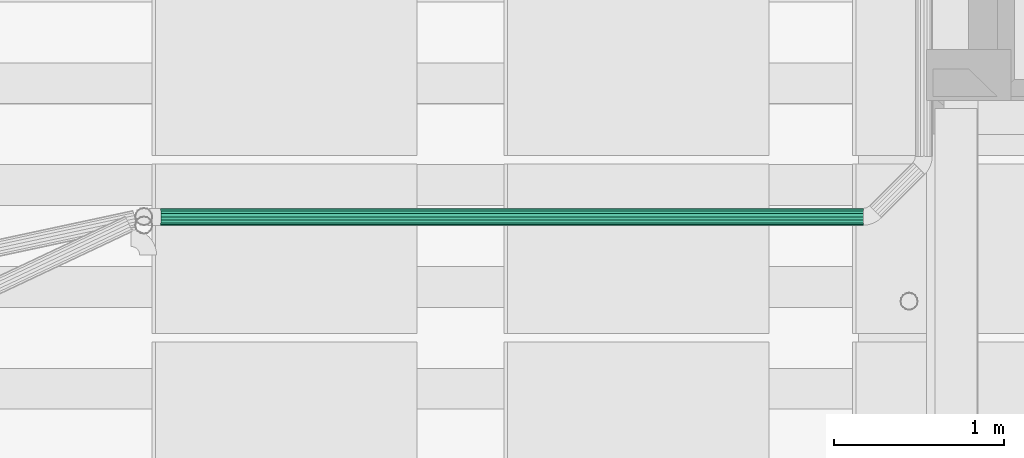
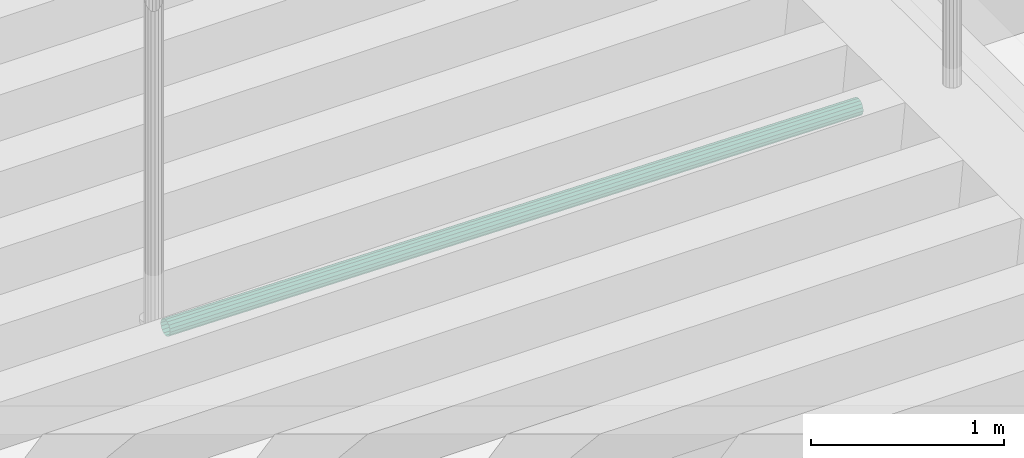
# One storey, part 45 of 106: 1 flow segment.
"""IFC2X3 building model written with IfcOpenShell, lengths in metres."""

from ifc_helpers import new_model, entity, si_unit, converted_unit, derived_unit, money_unit, direction, frame, origin_with_axes, place, context, subcontext, project, spatial, faceted_brep, material, type_object, element, save


model = new_model("IFC2X3")

# Units and contexts
model_context = context("Model", 3, precision=1e-05, world=origin_with_axes(), true_north=direction((0.0, 1.0)))
body_context = subcontext(model_context, "Body", "Model", "MODEL_VIEW", scale=1.0)
ifc_project = project(units=[si_unit("LENGTHUNIT", "METRE"), si_unit("AREAUNIT", "SQUARE_METRE"), si_unit("VOLUMEUNIT", "CUBIC_METRE"), si_unit("ABSORBEDDOSEUNIT", "GRAY"), si_unit("AMOUNTOFSUBSTANCEUNIT", "MOLE"), si_unit("DOSEEQUIVALENTUNIT", "SIEVERT"), si_unit("ELECTRICCAPACITANCEUNIT", "FARAD"), si_unit("ELECTRICCHARGEUNIT", "COULOMB"), si_unit("ELECTRICCONDUCTANCEUNIT", "SIEMENS"), si_unit("ELECTRICCURRENTUNIT", "AMPERE"), si_unit("ELECTRICRESISTANCEUNIT", "OHM"), si_unit("ELECTRICVOLTAGEUNIT", "VOLT"), si_unit("ENERGYUNIT", "JOULE"), si_unit("FORCEUNIT", "NEWTON"), si_unit("FREQUENCYUNIT", "HERTZ"), si_unit("ILLUMINANCEUNIT", "LUX"), si_unit("INDUCTANCEUNIT", "HENRY"), si_unit("LUMINOUSFLUXUNIT", "LUMEN"), si_unit("LUMINOUSINTENSITYUNIT", "CANDELA"), si_unit("MAGNETICFLUXDENSITYUNIT", "TESLA"), si_unit("MAGNETICFLUXUNIT", "WEBER"), si_unit("MASSUNIT", "GRAM"), converted_unit("PLANEANGLEUNIT", "degree", entity("IfcReal", 0.0174532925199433), si_unit("PLANEANGLEUNIT", "RADIAN"), dimensions=[0, 0, 0, 0, 0, 0, 0]), si_unit("POWERUNIT", "WATT"), si_unit("PRESSUREUNIT", "PASCAL"), si_unit("RADIOACTIVITYUNIT", "BECQUEREL"), si_unit("SOLIDANGLEUNIT", "STERADIAN"), si_unit("THERMODYNAMICTEMPERATUREUNIT", "KELVIN"), si_unit("TIMEUNIT", "SECOND"), derived_unit("ACCELERATIONUNIT", [(si_unit("LENGTHUNIT", "METRE"), 1), (si_unit("TIMEUNIT", "SECOND"), -2)]), derived_unit("ANGULARVELOCITYUNIT", [(converted_unit("PLANEANGLEUNIT", "degree", entity("IfcReal", 0.0174532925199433), si_unit("PLANEANGLEUNIT", "RADIAN"), dimensions=[0, 0, 0, 0, 0, 0, 0]), 1), (si_unit("TIMEUNIT", "SECOND"), -1)]), derived_unit("CURVATUREUNIT", [(converted_unit("PLANEANGLEUNIT", "degree", entity("IfcReal", 0.0174532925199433), si_unit("PLANEANGLEUNIT", "RADIAN"), dimensions=[0, 0, 0, 0, 0, 0, 0]), 1), (si_unit("LENGTHUNIT", "METRE"), -1)]), derived_unit("DYNAMICVISCOSITYUNIT", [(si_unit("PRESSUREUNIT", "PASCAL"), 1), (si_unit("TIMEUNIT", "SECOND"), 1)]), derived_unit("HEATFLUXDENSITYUNIT", [(si_unit("POWERUNIT", "WATT"), 1), (si_unit("LENGTHUNIT", "METRE"), -2)]), derived_unit("HEATINGVALUEUNIT", [(si_unit("ENERGYUNIT", "JOULE"), 1), (si_unit("MASSUNIT", "GRAM"), -1)]), derived_unit("INTEGERCOUNTRATEUNIT", [(si_unit("TIMEUNIT", "SECOND"), -1)]), derived_unit("IONCONCENTRATIONUNIT", [(si_unit("MASSUNIT", "GRAM"), 1), (si_unit("VOLUMEUNIT", "CUBIC_METRE"), -1)]), derived_unit("ISOTHERMALMOISTURECAPACITYUNIT", [(si_unit("VOLUMEUNIT", "CUBIC_METRE"), 1), (si_unit("MASSUNIT", "GRAM"), -1)]), derived_unit("KINEMATICVISCOSITYUNIT", [(si_unit("AREAUNIT", "SQUARE_METRE"), 1), (si_unit("TIMEUNIT", "SECOND"), -1)]), derived_unit("LINEARFORCEUNIT", [(si_unit("FORCEUNIT", "NEWTON"), 1), (si_unit("LENGTHUNIT", "METRE"), -1)]), derived_unit("LINEARMOMENTUNIT", [(si_unit("FORCEUNIT", "NEWTON"), 1), (si_unit("LENGTHUNIT", "METRE"), -1)]), derived_unit("LINEARSTIFFNESSUNIT", [(si_unit("FORCEUNIT", "NEWTON"), 1), (si_unit("LENGTHUNIT", "METRE"), -1)]), derived_unit("LINEARVELOCITYUNIT", [(si_unit("LENGTHUNIT", "METRE"), 1), (si_unit("TIMEUNIT", "SECOND"), -1)]), derived_unit("LUMINOUSINTENSITYDISTRIBUTIONUNIT", [(si_unit("LUMINOUSINTENSITYUNIT", "CANDELA"), 1), (si_unit("LUMINOUSFLUXUNIT", "LUMEN"), -1)]), derived_unit("MASSDENSITYUNIT", [(si_unit("MASSUNIT", "GRAM"), 1), (si_unit("VOLUMEUNIT", "CUBIC_METRE"), -1)]), derived_unit("MASSFLOWRATEUNIT", [(si_unit("MASSUNIT", "GRAM"), 1), (si_unit("TIMEUNIT", "SECOND"), -1)]), derived_unit("MASSPERLENGTHUNIT", [(si_unit("MASSUNIT", "GRAM"), 1), (si_unit("LENGTHUNIT", "METRE"), -1)]), derived_unit("MODULUSOFELASTICITYUNIT", [(si_unit("FORCEUNIT", "NEWTON"), 1), (si_unit("AREAUNIT", "SQUARE_METRE"), -1)]), derived_unit("MODULUSOFLINEARSUBGRADEREACTIONUNIT", [(si_unit("FORCEUNIT", "NEWTON"), 1), (si_unit("LENGTHUNIT", "METRE"), -2)]), derived_unit("MODULUSOFROTATIONALSUBGRADEREACTIONUNIT", [(si_unit("FORCEUNIT", "NEWTON"), 1), (si_unit("LENGTHUNIT", "METRE"), 1)]), derived_unit("MODULUSOFSUBGRADEREACTIONUNIT", [(si_unit("FORCEUNIT", "NEWTON"), 1), (si_unit("VOLUMEUNIT", "CUBIC_METRE"), -1)]), derived_unit("MOISTUREDIFFUSIVITYUNIT", [(si_unit("VOLUMEUNIT", "CUBIC_METRE"), 1), (si_unit("TIMEUNIT", "SECOND"), -1)]), derived_unit("MOLECULARWEIGHTUNIT", [(si_unit("MASSUNIT", "GRAM"), 1), (si_unit("AMOUNTOFSUBSTANCEUNIT", "MOLE"), -1)]), derived_unit("PLANARFORCEUNIT", [(si_unit("FORCEUNIT", "NEWTON"), 1), (si_unit("LENGTHUNIT", "METRE"), -2)]), derived_unit("ROTATIONALFREQUENCYUNIT", [(si_unit("TIMEUNIT", "SECOND"), -1)]), derived_unit("ROTATIONALMASSUNIT", [(si_unit("MASSUNIT", "GRAM"), 1), (si_unit("LENGTHUNIT", "METRE"), 2)]), derived_unit("ROTATIONALSTIFFNESSUNIT", [(si_unit("FORCEUNIT", "NEWTON"), 1), (si_unit("LENGTHUNIT", "METRE"), 1), (converted_unit("PLANEANGLEUNIT", "degree", entity("IfcReal", 0.0174532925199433), si_unit("PLANEANGLEUNIT", "RADIAN"), dimensions=[0, 0, 0, 0, 0, 0, 0]), -1)]), derived_unit("SECTIONAREAINTEGRALUNIT", [(si_unit("LENGTHUNIT", "METRE"), 5)]), derived_unit("SECTIONMODULUSUNIT", [(si_unit("LENGTHUNIT", "METRE"), 3)]), derived_unit("SHEARMODULUSUNIT", [(si_unit("FORCEUNIT", "NEWTON"), 1), (si_unit("AREAUNIT", "SQUARE_METRE"), -1)]), derived_unit("SOUNDPOWERUNIT", [(si_unit("ENERGYUNIT", "JOULE"), 1), (si_unit("TIMEUNIT", "SECOND"), -1)]), derived_unit("SPECIFICHEATCAPACITYUNIT", [(si_unit("FORCEUNIT", "NEWTON"), 1), (si_unit("MASSUNIT", "GRAM"), -1), (si_unit("THERMODYNAMICTEMPERATUREUNIT", "KELVIN"), -1)]), derived_unit("TEMPERATUREGRADIENTUNIT", [(si_unit("THERMODYNAMICTEMPERATUREUNIT", "KELVIN"), 1), (si_unit("LENGTHUNIT", "METRE"), -1)]), derived_unit("THERMALADMITTANCEUNIT", [(si_unit("POWERUNIT", "WATT"), 1), (si_unit("AREAUNIT", "SQUARE_METRE"), -1), (si_unit("THERMODYNAMICTEMPERATUREUNIT", "KELVIN"), -1)]), derived_unit("THERMALCONDUCTANCEUNIT", [(si_unit("POWERUNIT", "WATT"), 1), (si_unit("LENGTHUNIT", "METRE"), -1), (si_unit("THERMODYNAMICTEMPERATUREUNIT", "KELVIN"), -1)]), derived_unit("THERMALEXPANSIONCOEFFICIENTUNIT", [(si_unit("THERMODYNAMICTEMPERATUREUNIT", "KELVIN"), -1)]), derived_unit("THERMALRESISTANCEUNIT", [(si_unit("AREAUNIT", "SQUARE_METRE"), 1), (si_unit("POWERUNIT", "WATT"), -1)]), derived_unit("THERMALTRANSMITTANCEUNIT", [(si_unit("POWERUNIT", "WATT"), 1), (si_unit("AREAUNIT", "SQUARE_METRE"), -1), (si_unit("THERMODYNAMICTEMPERATUREUNIT", "KELVIN"), -1)]), derived_unit("TORQUEUNIT", [(si_unit("FORCEUNIT", "NEWTON"), 1), (si_unit("LENGTHUNIT", "METRE"), 1)]), derived_unit("VAPORPERMEABILITYUNIT", [(si_unit("MASSUNIT", "GRAM"), 1), (si_unit("TIMEUNIT", "SECOND"), -1)]), derived_unit("VOLUMETRICFLOWRATEUNIT", [(si_unit("VOLUMEUNIT", "CUBIC_METRE"), 1), (si_unit("TIMEUNIT", "SECOND"), -1)]), derived_unit("WARPINGCONSTANTUNIT", [(si_unit("LENGTHUNIT", "METRE"), 6)]), derived_unit("WARPINGMOMENTUNIT", [(si_unit("FORCEUNIT", "NEWTON"), 1), (si_unit("LENGTHUNIT", "METRE"), 2)]), money_unit("GBP")], contexts=[model_context])

# Site, building, storey, space
site_placement = place(None, origin_with_axes())
site = spatial("IfcSite", under=ifc_project, at=site_placement, Name="Site", CompositionType="ELEMENT")
building_placement = place(site_placement, origin_with_axes())
building = spatial("IfcBuilding", under=site, at=building_placement, Name="Building01", CompositionType="ELEMENT")
storey_placement = place(building_placement, origin_with_axes())
storey = spatial("IfcBuildingStorey", under=building, at=storey_placement, Name="GF", CompositionType="ELEMENT", Elevation=0.0)
space_placement = place(storey_placement, frame((3.380525, 16.69365, 0.216987), z_axis=(0.0, 0.0, 1.0), x_axis=(-1.0, 0.0, 0.0)))
space = spatial("IfcSpace", under=storey, at=space_placement, Name="0", CompositionType="ELEMENT", InteriorOrExteriorSpace="NOTDEFINED")

# Flow segment
ifc_material = material(Name="M_BSUK_ColdWater")
pipe_segment_type = type_object("IfcPipeSegmentType", Name="M-BmpStraightpipe-DefaultPipe", PredefinedType="RIGIDSEGMENT")
flow_segment_placement = place(storey_placement, frame((4.41448, 8.16317, 4.675526), z_axis=(0.01249902, 0.0, 0.99992188), x_axis=(0.99992188, 0.0, -0.01249902)))
element("IfcFlowSegment", 1, at=flow_segment_placement, inside=space, type_object=pipe_segment_type, material=ifc_material, Name="M-BmpStraightpipe-DefaultPipe", ObjectType="M-BmpStraightpipe-DefaultPipe", context=body_context, shape_type="Brep", body=[
    faceted_brep([(4.139687, 0.0, -0.05), (0.0, 0.0, -0.05), (0.0, 0.019134, -0.046194), (4.139687, 0.019134, -0.046194), (0.0, 0.035355, -0.035355), (4.139687, 0.035355, -0.035355), (0.0, 0.046194, -0.019134), (4.139687, 0.046194, -0.019134), (0.0, 0.05, 0.0), (4.139687, 0.05, 0.0), (0.0, 0.046194, 0.019134), (4.139687, 0.046194, 0.019134), (0.0, 0.035355, 0.035355), (4.139687, 0.035355, 0.035355), (0.0, 0.019134, 0.046194), (4.139687, 0.019134, 0.046194), (0.0, 0.0, 0.05), (4.139687, 0.0, 0.05), (0.0, -0.019134, 0.046194), (4.139687, -0.019134, 0.046194), (0.0, -0.035355, 0.035355), (4.139687, -0.035355, 0.035355), (0.0, -0.046194, 0.019134), (4.139687, -0.046194, 0.019134), (0.0, -0.05, 0.0), (4.139687, -0.05, 0.0), (0.0, -0.046194, -0.019134), (4.139687, -0.046194, -0.019134), (0.0, -0.035355, -0.035355), (4.139687, -0.035355, -0.035355), (0.0, -0.019134, -0.046194), (4.139687, -0.019134, -0.046194)], [[[0, 1, 2, 3]], [[3, 2, 4, 5]], [[5, 4, 6, 7]], [[7, 6, 8, 9]], [[9, 8, 10, 11]], [[11, 10, 12, 13]], [[13, 12, 14, 15]], [[15, 14, 16, 17]], [[17, 16, 18, 19]], [[19, 18, 20, 21]], [[21, 20, 22, 23]], [[23, 22, 24, 25]], [[25, 24, 26, 27]], [[27, 26, 28, 29]], [[29, 28, 30, 31]], [[31, 30, 1, 0]]]),
])

save(model, "model.ifc")
